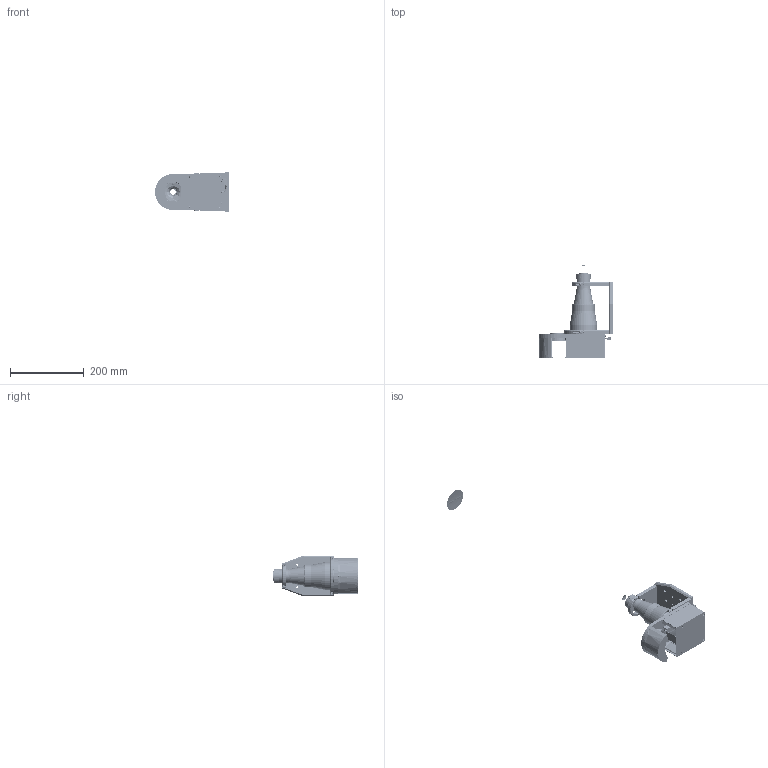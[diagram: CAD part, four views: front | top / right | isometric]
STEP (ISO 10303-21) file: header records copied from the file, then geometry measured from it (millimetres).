
FILE_DESCRIPTION(('LS-TCL-0021'),'2;1');
FILE_NAME('LS-TCL-0021.stp','2026-10-15T21:52:06',('LumaSpec Vision'),('LumaSpec Vision'),'LumaSpec Vision','LumaSpec Vision','');
FILE_SCHEMA(('AUTOMOTIVE_DESIGN { 1 0 10303 214 1 1 1 1 }'));
Length unit declared in the file: millimetre
Products named in the file (1978): LumaSpec Vision
Assembly tree (2238 placements, depth 3):
  LumaSpec Vision
    LumaSpec Vision  x4
      LumaSpec Vision
      LumaSpec Vision
      LumaSpec Vision
      LumaSpec Vision
      LumaSpec Vision
      LumaSpec Vision
      LumaSpec Vision
      LumaSpec Vision
      LumaSpec Vision
      LumaSpec Vision
    LumaSpec Vision
      LumaSpec Vision
      LumaSpec Vision
      LumaSpec Vision
      LumaSpec Vision
      LumaSpec Vision
      LumaSpec Vision
      LumaSpec Vision
    LumaSpec Vision
      LumaSpec Vision
      LumaSpec Vision
      LumaSpec Vision
      LumaSpec Vision
      LumaSpec Vision
      LumaSpec Vision
    LumaSpec Vision
      LumaSpec Vision
      LumaSpec Vision
      LumaSpec Vision
      LumaSpec Vision
      LumaSpec Vision
      LumaSpec Vision
      LumaSpec Vision
      LumaSpec Vision
      LumaSpec Vision
      LumaSpec Vision
      LumaSpec Vision
      LumaSpec Vision
      LumaSpec Vision
      LumaSpec Vision
      LumaSpec Vision
      LumaSpec Vision
      LumaSpec Vision
      LumaSpec Vision
      LumaSpec Vision
      LumaSpec Vision
      LumaSpec Vision
      LumaSpec Vision
      LumaSpec Vision
      LumaSpec Vision
      LumaSpec Vision
      LumaSpec Vision
      LumaSpec Vision
      LumaSpec Vision
      LumaSpec Vision
      LumaSpec Vision
      LumaSpec Vision
      LumaSpec Vision
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Bounding box: 200.8 x 902.12 x 111 mm (x, y, z)
Surface area: 416520.7 mm2 (no closed solid volume)
Topology: 0 solids, 4833 shells, 4833 faces, 51821 edges, 51590 vertices
Faces by surface type: bspline 3227, revolution 1606
Entity records: 536308 total; most frequent: CARTESIAN_POINT 216996, B_SPLINE_CURVE_WITH_KNOTS 55589, ORIENTED_EDGE 31361, EDGE_CURVE 31361, VERTEX_POINT 31361, SURFACE_CURVE 31361, PCURVE 31361, DEFINITIONAL_REPRESENTATION 31361
